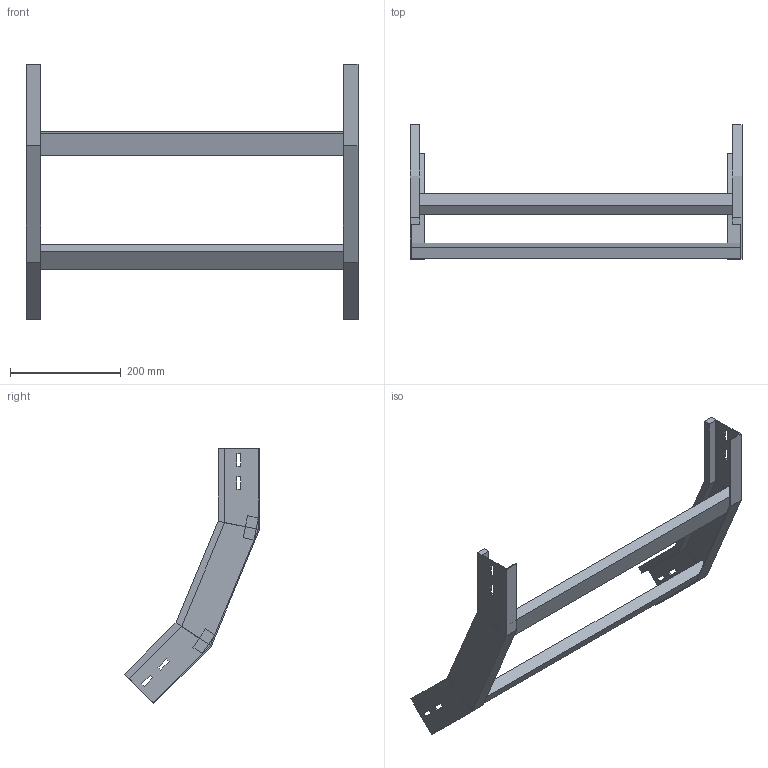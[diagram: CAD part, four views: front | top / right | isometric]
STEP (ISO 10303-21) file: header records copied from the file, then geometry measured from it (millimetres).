
FILE_DESCRIPTION (( 'STEP AP214' ), '1' );
FILE_NAME ('B2X31B5C600XX.step', '2025-03-20T10:11:05', ( '' ), ( '' ), 'SwSTEP 2.0', 'SolidWorks 2023', '' );
FILE_SCHEMA (( 'AUTOMOTIVE_DESIGN' ));
Length unit declared in the file: millimetre
Products named in the file (3): B2X31B5C600XX; TRAVERSINO_600; LONGH.SALITA_45°_H75_R500
Assembly tree (4 placements, depth 2):
  B2X31B5C600XX
    LONGH.SALITA_45°_H75_R500  x2
    TRAVERSINO_600  x2
Bounding box: 600 x 244.02 x 461.09 mm (x, y, z)
Volume: 1341721.5 mm3; surface area: 380821.9 mm2
Topology: 4 solids, 4 shells, 96 faces, 232 edges, 144 vertices
Faces by surface type: plane 96
Entity records: 1472 total; most frequent: CARTESIAN_POINT 243, ORIENTED_EDGE 232, DIRECTION 226, EDGE_CURVE 116, VECTOR 116, LINE 116, VERTEX_POINT 72, EDGE_LOOP 56
